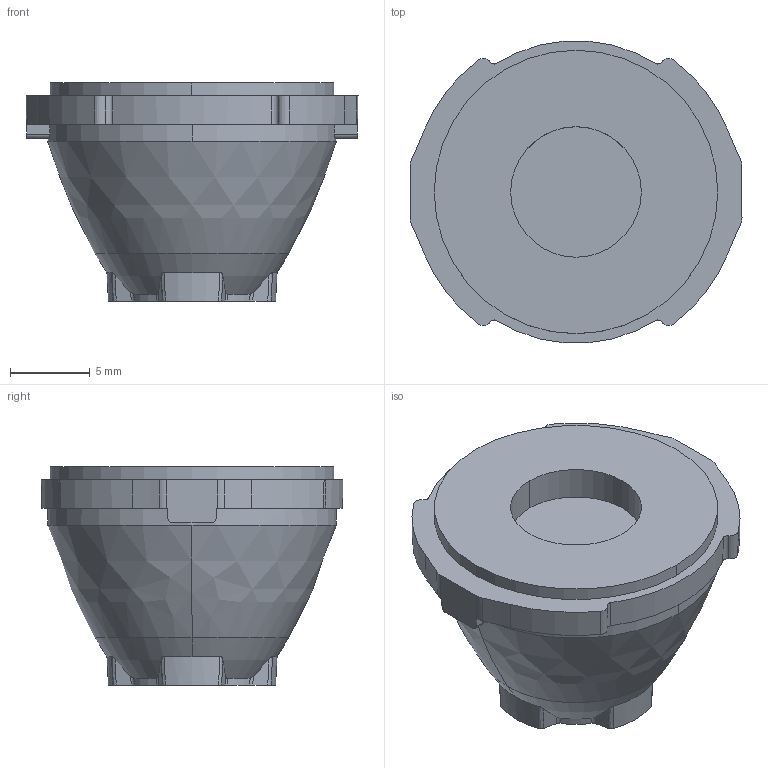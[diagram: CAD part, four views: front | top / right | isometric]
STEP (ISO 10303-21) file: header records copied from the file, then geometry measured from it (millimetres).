
FILE_DESCRIPTION(('Creo Elements/Direct Modeling STEP Export'),'2;1');
FILE_NAME('91753.stp','2026-09-14T13:21:19',(''),(''),'Creo Elements/Direct Modeling STEP processor for AP214 (Solid Model)','Creo Elements/Direct Modeling 20.9 29-May-2026 (C) Parametric Technology GmbH','');
FILE_SCHEMA(('AUTOMOTIVE_DESIGN { 1 0 10303 214 1 1 1 1 }'));
Length unit declared in the file: millimetre
Products named in the file (2): 91753
Assembly tree (1 placements, depth 2):
  91753
    91753
Bounding box: 20.85 x 18.94 x 13.7 mm (x, y, z)
Volume: 2393.8 mm3; surface area: 1319.1 mm2
Topology: 1 solids, 1 shells, 85 faces, 238 edges, 158 vertices
Faces by surface type: cone 26, plane 23, bspline 16, cylinder 16, revolution 4
Entity records: 3592 total; most frequent: CARTESIAN_POINT 1476, ORIENTED_EDGE 476, DIRECTION 392, EDGE_CURVE 238, VERTEX_POINT 158, AXIS2_PLACEMENT_3D 154, EDGE_LOOP 88, FACE_OUTER_BOUND 85
